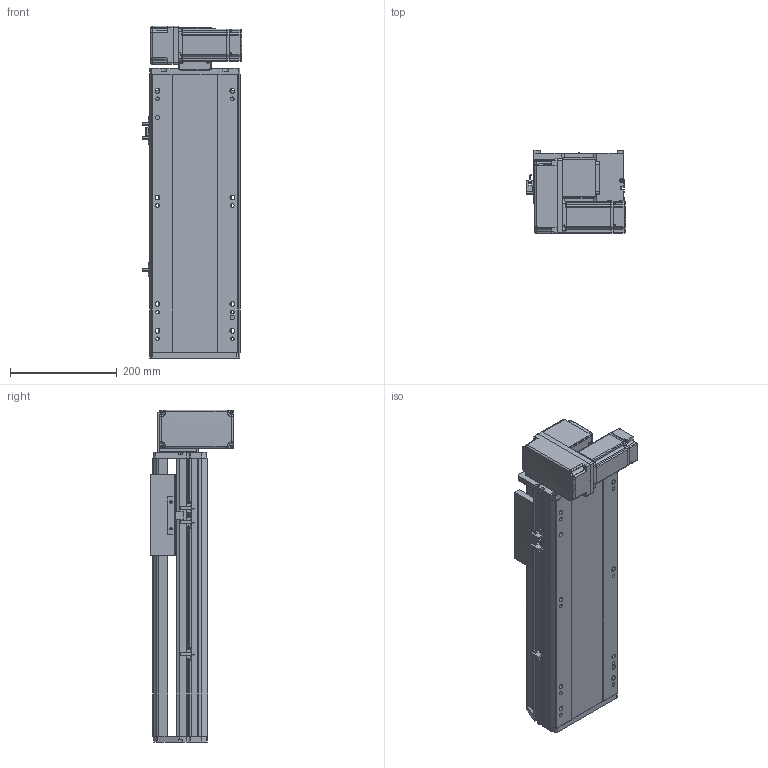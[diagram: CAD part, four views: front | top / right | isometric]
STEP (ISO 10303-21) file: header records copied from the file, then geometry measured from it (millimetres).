
FILE_DESCRIPTION (( 'STEP AP214' ), '1' );
FILE_NAME ('RTB17S-XX-250-LM-M40-C4.STEP', '2025-12-11T06:21:21', ( '' ), ( '' ), 'SwSTEP 2.0', 'SolidWorks 2018', '' );
FILE_SCHEMA (( 'AUTOMOTIVE_DESIGN' ));
Length unit declared in the file: millimetre
Products named in the file (14): RTB14-L-005P--轴承塑胶压盖^RTB17S-LM-皮带座装配-400W_RTB17S-XX-XX-LM-M40-C4; RMP17S-L-014-T20--々湍釱^RTB17S-LM-々湍釱蚾饜-400W_RTB17S-XX-XX-LM-M40-C4; RTH13-BL-012覜茼え俋离^RTB17S-XX-XX-LM-M40-C4; RTB17S-L-007奻裔^RTB17S-XX-XX-LM-M40-C4; RTB14-L-018P^RTB17S-LM-々湍釱蚾饜-400W_RTB17S-XX-XX-LM-M40-C4; OMRON EE-SX672 传感器^RTB17S-XX-XX-LM-M40-C4; RTB14-L-008-M20--萇儂啣^RTB17S-LM-々湍釱蚾饜-400W_RTB17S-XX-XX-LM-M40-C4; RTB17S-LM-々湍釱蚾饜-400W^RTB17S-XX-XX-LM-M40-C4; RTB14-L-017P^RTB17S-LM-々湍釱蚾饜-400W_RTB17S-XX-XX-LM-M40-C4; 400W侜督萇儂^RTB17S-XX-XX-LM-M40-C4; RTB17S-L-001耜醱啣^RTB17S-XX-XX-LM-M40-C4; RTB17S-L-004佪裝蹟譫蟀諉釱^RTB17S-XX-XX-LM-M40-C4; RTB17-R-011菁釱^RTB17S-XX-XX-LM-M40-C4; RTB17S-XX-250-LM-M40-C4
Assembly tree (16 placements, depth 3):
  RTB17S-XX-250-LM-M40-C4
    RTB17-R-011菁釱^RTB17S-XX-XX-LM-M40-C4
    RTB17S-L-007奻裔^RTB17S-XX-XX-LM-M40-C4
    OMRON EE-SX672 传感器^RTB17S-XX-XX-LM-M40-C4  x3
    RTH13-BL-012覜茼え俋离^RTB17S-XX-XX-LM-M40-C4
    RTB17S-L-001耜醱啣^RTB17S-XX-XX-LM-M40-C4
    400W侜督萇儂^RTB17S-XX-XX-LM-M40-C4
    RTB17S-L-004佪裝蹟譫蟀諉釱^RTB17S-XX-XX-LM-M40-C4
    RTB17S-LM-々湍釱蚾饜-400W^RTB17S-XX-XX-LM-M40-C4
      RMP17S-L-014-T20--々湍釱^RTB17S-LM-々湍釱蚾饜-400W_RTB17S-XX-XX-LM-M40-C4
      RTB14-L-005P--轴承塑胶压盖^RTB17S-LM-皮带座装配-400W_RTB17S-XX-XX-LM-M40-C4
      RTB14-L-008-M20--萇儂啣^RTB17S-LM-々湍釱蚾饜-400W_RTB17S-XX-XX-LM-M40-C4
      RTB14-L-017P^RTB17S-LM-々湍釱蚾饜-400W_RTB17S-XX-XX-LM-M40-C4  x2
      RTB14-L-018P^RTB17S-LM-々湍釱蚾饜-400W_RTB17S-XX-XX-LM-M40-C4
Bounding box: 186 x 156.5 x 622.5 mm (x, y, z)
Volume: 6252946.2 mm3; surface area: 832894.9 mm2
Topology: 15 solids, 15 shells, 2157 faces, 5925 edges, 3861 vertices
Faces by surface type: plane 1062, cylinder 647, bspline 301, cone 139, torus 8
Entity records: 60329 total; most frequent: CARTESIAN_POINT 16730, ORIENTED_EDGE 8694, DIRECTION 8126, EDGE_CURVE 4347, VERTEX_POINT 2849, AXIS2_PLACEMENT_3D 2779, LINE 2568, VECTOR 2568
